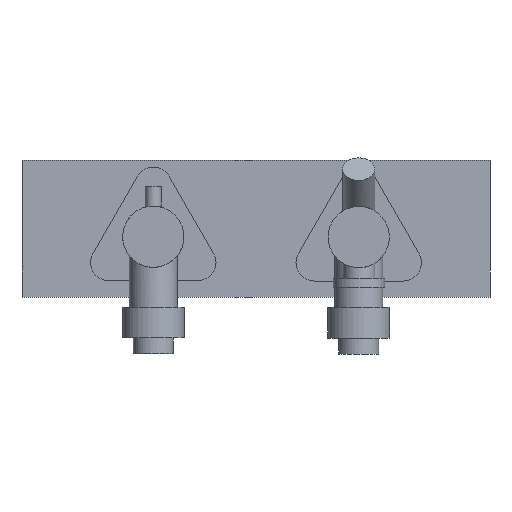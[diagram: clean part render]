
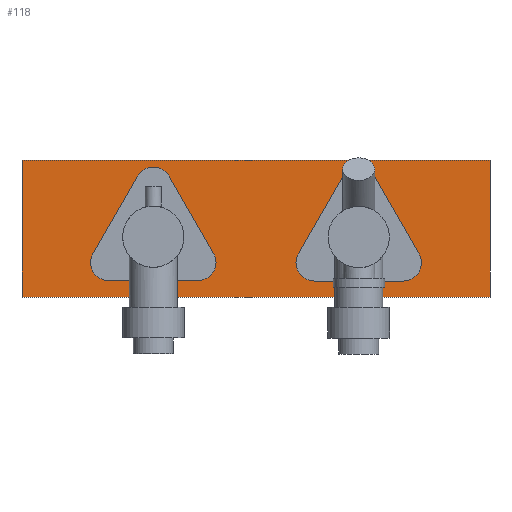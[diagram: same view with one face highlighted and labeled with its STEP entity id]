
A CAD part, front view. The second image highlights one B-rep face of the part: STEP entity #118.
In plain terms, the highlighted planar face has unit normal (0, -1, 0).
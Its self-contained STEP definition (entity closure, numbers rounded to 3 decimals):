
#118=ADVANCED_FACE('',(#180),#181,.T.);
#180=FACE_OUTER_BOUND('',#312,.T.);
#181=PLANE('',#313);
#312=EDGE_LOOP('',(#449,#450,#451,#452));
#313=AXIS2_PLACEMENT_3D('',#453,#454,#455);
#449=ORIENTED_EDGE('',*,*,#772,.T.);
#450=ORIENTED_EDGE('',*,*,#773,.T.);
#451=ORIENTED_EDGE('',*,*,#770,.F.);
#452=ORIENTED_EDGE('',*,*,#774,.T.);
#453=CARTESIAN_POINT('',(102.5,0.0,30.0));
#454=DIRECTION('',(0.0,-1.0,0.0));
#455=DIRECTION('',(0.0,0.0,-1.0));
#770=EDGE_CURVE('',#857,#859,#860,.T.);
#772=EDGE_CURVE('',#862,#863,#864,.T.);
#773=EDGE_CURVE('',#863,#859,#865,.T.);
#774=EDGE_CURVE('',#857,#862,#866,.T.);
#857=VERTEX_POINT('',#998);
#859=VERTEX_POINT('',#1001);
#860=LINE('',#1002,#1003);
#862=VERTEX_POINT('',#1006);
#863=VERTEX_POINT('',#1007);
#864=LINE('',#1008,#1009);
#865=LINE('',#1010,#1011);
#866=LINE('',#1012,#1013);
#998=CARTESIAN_POINT('',(102.5,0.0,-30.0));
#1001=CARTESIAN_POINT('',(-102.5,0.0,-30.0));
#1002=CARTESIAN_POINT('',(102.5,0.0,-30.0));
#1003=VECTOR('',#1569,1.0);
#1006=CARTESIAN_POINT('',(102.5,0.0,30.0));
#1007=CARTESIAN_POINT('',(-102.5,0.0,30.0));
#1008=CARTESIAN_POINT('',(102.5,0.0,30.0));
#1009=VECTOR('',#1571,1.0);
#1010=CARTESIAN_POINT('',(-102.5,0.0,30.0));
#1011=VECTOR('',#1572,1.0);
#1012=CARTESIAN_POINT('',(102.5,0.0,-30.0));
#1013=VECTOR('',#1573,1.0);
#1569=DIRECTION('',(-1.0,0.0,0.0));
#1571=DIRECTION('',(-1.0,0.0,0.0));
#1572=DIRECTION('',(0.0,0.0,-1.0));
#1573=DIRECTION('',(0.0,0.0,1.0));
